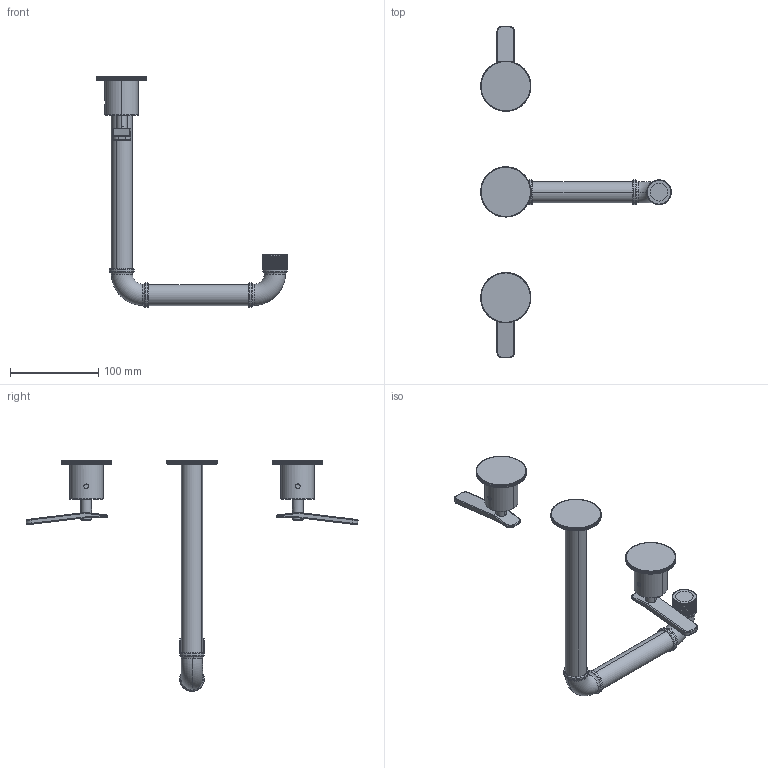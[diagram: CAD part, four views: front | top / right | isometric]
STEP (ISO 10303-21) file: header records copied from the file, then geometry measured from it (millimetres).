
FILE_DESCRIPTION (( 'STEP AP203' ), '1' );
FILE_NAME ('79325610 x architetti.STEP', '2023-09-29T06:40:06', ( '' ), ( '' ), 'SwSTEP 2.0', 'SolidWorks 2020', '' );
FILE_SCHEMA (( 'CONFIG_CONTROL_DESIGN' ));
Length unit declared in the file: millimetre
Products named in the file (1): 79325610 x architetti
Bounding box: 216.5 x 376.81 x 262 mm (x, y, z)
Volume: 349265.4 mm3; surface area: 78434.3 mm2
Topology: 7 solids, 11 shells, 2412 faces, 6906 edges, 4534 vertices
Faces by surface type: cylinder 1499, torus 672, plane 114, bspline 91, cone 36
Entity records: 99737 total; most frequent: CARTESIAN_POINT 40838, ORIENTED_EDGE 13804, DIRECTION 10834, EDGE_CURVE 6902, AXIS2_PLACEMENT_3D 4549, VERTEX_POINT 4534, B_SPLINE_CURVE_WITH_KNOTS 2859, EDGE_LOOP 2442
